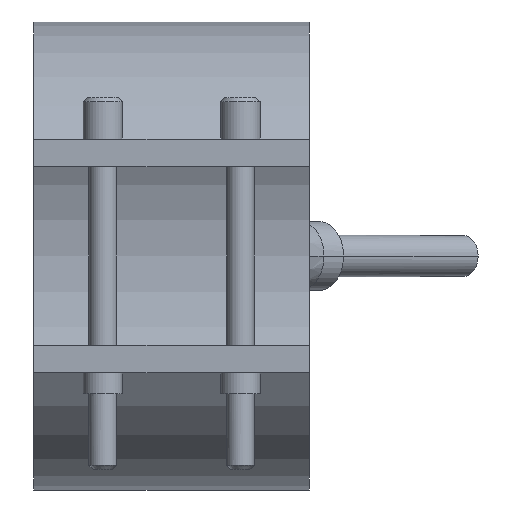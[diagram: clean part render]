
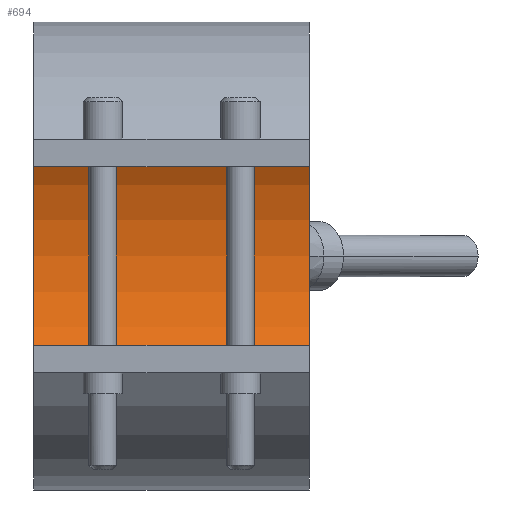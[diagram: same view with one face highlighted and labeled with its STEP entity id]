
A CAD part, front view. The second image highlights one B-rep face of the part: STEP entity #694.
In plain terms, the highlighted cylindrical face has radius 30 mm (diameter 60 mm), a partial arc.
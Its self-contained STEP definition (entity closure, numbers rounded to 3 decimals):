
#364=CARTESIAN_POINT('Vertex',(20.,0.,30.)) ;
#369=CARTESIAN_POINT('Axis2P3D Location',(20.,0.,0.)) ;
#373=CARTESIAN_POINT('Vertex',(20.,0.,-30.)) ;
#480=CARTESIAN_POINT('Vertex',(-20.,0.,-30.)) ;
#483=CARTESIAN_POINT('Axis2P3D Location',(-20.,0.,0.)) ;
#487=CARTESIAN_POINT('Vertex',(-20.,0.,30.)) ;
#666=CARTESIAN_POINT('Line Origine',(20.,0.,30.)) ;
#678=CARTESIAN_POINT('Axis2P3D Location',(20.,0.,0.)) ;
#683=CARTESIAN_POINT('Line Origine',(20.,0.,-30.)) ;
#370=DIRECTION('Axis2P3D Direction',(1.,0.,0.)) ;
#484=DIRECTION('Axis2P3D Direction',(1.,0.,0.)) ;
#667=DIRECTION('Vector Direction',(1.,0.,0.)) ;
#679=DIRECTION('Axis2P3D Direction',(1.,0.,-0.)) ;
#680=DIRECTION('Axis2P3D XDirection',(0.,0.,-1.)) ;
#684=DIRECTION('Vector Direction',(1.,0.,0.)) ;
#371=AXIS2_PLACEMENT_3D('Circle Axis2P3D',#369,#370,$) ;
#485=AXIS2_PLACEMENT_3D('Circle Axis2P3D',#483,#484,$) ;
#681=AXIS2_PLACEMENT_3D('Cylinder Axis2P3D',#678,#679,#680) ;
#689=ORIENTED_EDGE('',*,*,#375,.T.) ;
#690=ORIENTED_EDGE('',*,*,#670,.T.) ;
#691=ORIENTED_EDGE('',*,*,#489,.F.) ;
#692=ORIENTED_EDGE('',*,*,#687,.T.) ;
#668=VECTOR('Line Direction',#667,1.) ;
#685=VECTOR('Line Direction',#684,1.) ;
#694=ADVANCED_FACE('29060040',(#693),#682,.F.) ;
#372=CIRCLE('generated circle',#371,30.) ;
#486=CIRCLE('generated circle',#485,30.) ;
#682=CYLINDRICAL_SURFACE('generated cylinder',#681,30.) ;
#375=EDGE_CURVE('',#374,#365,#372,.T.) ;
#489=EDGE_CURVE('',#481,#488,#486,.T.) ;
#670=EDGE_CURVE('',#365,#488,#669,.F.) ;
#687=EDGE_CURVE('',#481,#374,#686,.T.) ;
#688=EDGE_LOOP('',(#689,#690,#691,#692)) ;
#693=FACE_OUTER_BOUND('',#688,.T.) ;
#669=LINE('Line',#666,#668) ;
#686=LINE('Line',#683,#685) ;
#365=VERTEX_POINT('',#364) ;
#374=VERTEX_POINT('',#373) ;
#481=VERTEX_POINT('',#480) ;
#488=VERTEX_POINT('',#487) ;
